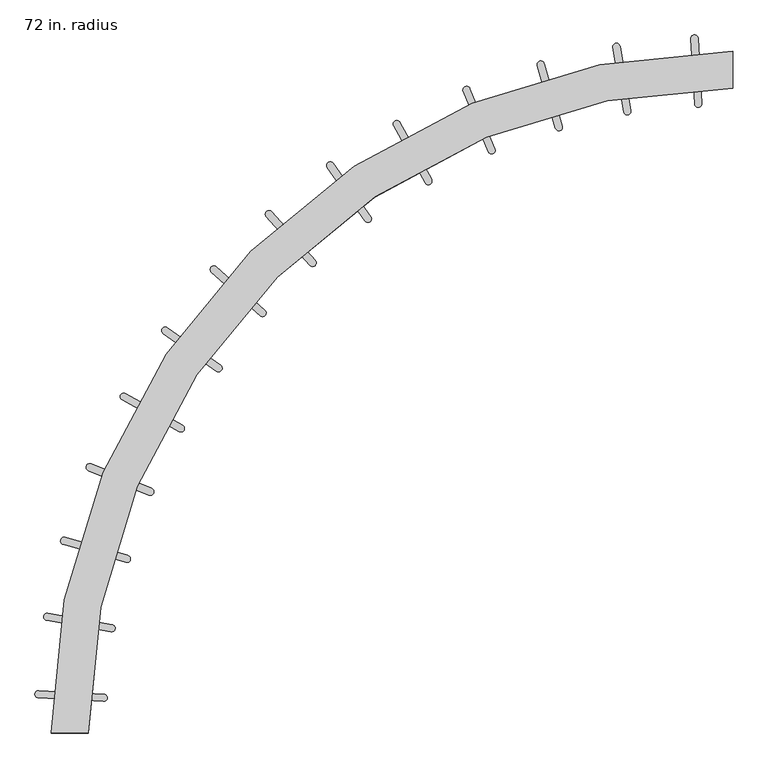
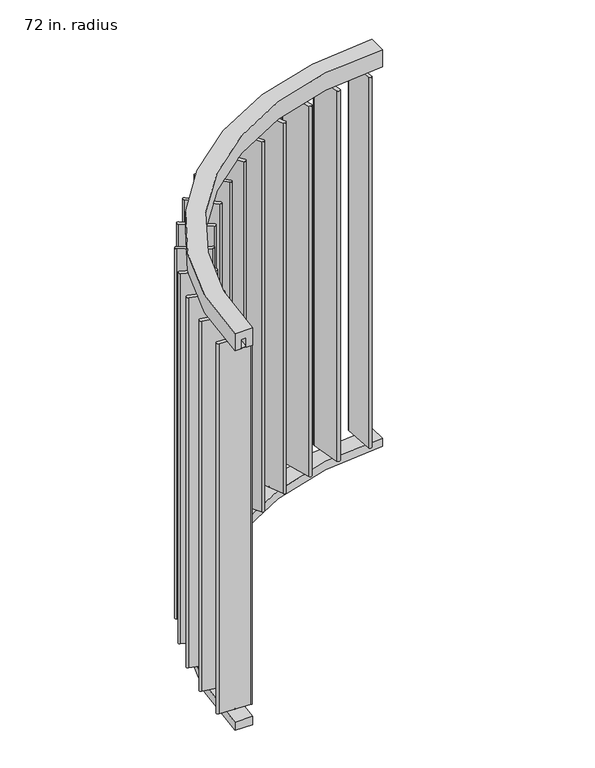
"""IFC4 building model written with IfcOpenShell, lengths in millimetres: furniture geometry, Haworth_Pergola_Slat_Painted_Radial : 72 in. radius."""

from ifc_helpers import new_model, si_unit, point, frame, frame_2d, origin, place, context, project, spatial, polyline, circle_curve, trimmed, segment, composite_curve, outline, extrude, source, transform, mapped, element, save
from ifc_brep_helpers import plane_surface, cylinder_surface, revolved_surface, advanced_brep


def furniture_72_in_radius_f867d50b(model_context):
    return source(origin(), model_context, "Body", "SolidModel", [
        extrude(outline(composite_curve([segment(trimmed(circle_curve(frame_2d((-62.7402712, 1825.7118169)), 6.0), [point((-67.2129486, 1829.7112115))], [point((-58.2675938, 1821.7124223))], False, "CARTESIAN"), True, "CONTINUOUS"), segment(trimmed(circle_curve(frame_2d((-62.7402712, 1825.7118169)), 6.0), [point((-58.2675938, 1821.7124223))], [point((-67.2129486, 1829.7112115))], False, "CARTESIAN"), True, "CONTINUOUS")], self_intersect=False)), frame((0.0, 0.0, 2331.8390625), z_axis=(0.0, 0.0, 1.0), x_axis=(1.0, 0.0, 0.0)), (0.0, 0.0, 1.0), 4.9609375),
        extrude(outline(composite_curve([segment(trimmed(circle_curve(frame_2d((-62.7402712, 1825.7118169)), 6.0), [point((-67.2129486, 1829.7112115))], [point((-58.2675938, 1821.7124223))], False, "CARTESIAN"), True, "CONTINUOUS"), segment(trimmed(circle_curve(frame_2d((-62.7402712, 1825.7118169)), 6.0), [point((-58.2675938, 1821.7124223))], [point((-67.2129486, 1829.7112115))], False, "CARTESIAN"), True, "CONTINUOUS")], self_intersect=False)), frame((0.0, 0.0, 63.5), z_axis=(0.0, 0.0, 1.0), x_axis=(1.0, 0.0, 0.0)), (0.0, 0.0, 1.0), 4.9609375),
        extrude(outline(composite_curve([segment(polyline([(-57.7748084, 1916.1124492), (-47.7357097, 1736.4060257)]), True, "CONTINUOUS"), segment(trimmed(circle_curve(frame_2d((-57.7201443, 1735.8482564)), 10.0000021), [point((-47.7357097, 1736.4060257))], [point((-67.704579, 1735.2904875))], False, "CARTESIAN"), True, "CONTINUOUS"), segment(polyline([(-67.704579, 1735.2904875), (-77.7436715, 1914.9969113)]), True, "CONTINUOUS"), segment(trimmed(circle_curve(frame_2d((-67.75924, 1915.55468)), 9.999999), [point((-77.7436715, 1914.9969113))], [point((-57.7748084, 1916.1124492))], False, "CARTESIAN"), True, "CONTINUOUS")], self_intersect=False)), frame((0.0, 0.0, 68.4609375), z_axis=(0.0, 0.0, 1.0), x_axis=(1.0, 0.0, 0.0)), (0.0, 0.0, 1.0), 2263.378125),
        extrude(outline(composite_curve([segment(trimmed(circle_curve(frame_2d((-268.0710539, 1803.8681342)), 6.0), [point((-272.9636666, 1807.3412223))], [point((-263.1784413, 1800.395046))], False, "CARTESIAN"), True, "CONTINUOUS"), segment(trimmed(circle_curve(frame_2d((-268.0710539, 1803.8681342)), 6.0), [point((-263.1784413, 1800.395046))], [point((-272.9636666, 1807.3412223))], False, "CARTESIAN"), True, "CONTINUOUS")], self_intersect=False)), frame((0.0, 0.0, 2331.8390625), z_axis=(0.0, 0.0, 1.0), x_axis=(1.0, 0.0, 0.0)), (0.0, 0.0, 1.0), 4.9609375),
        extrude(outline(composite_curve([segment(trimmed(circle_curve(frame_2d((-268.0710539, 1803.8681342)), 6.0), [point((-272.9636666, 1807.3412223))], [point((-263.1784413, 1800.395046))], False, "CARTESIAN"), True, "CONTINUOUS"), segment(trimmed(circle_curve(frame_2d((-268.0710539, 1803.8681342)), 6.0), [point((-263.1784413, 1800.395046))], [point((-272.9636666, 1807.3412223))], False, "CARTESIAN"), True, "CONTINUOUS")], self_intersect=False)), frame((0.0, 0.0, 63.5), z_axis=(0.0, 0.0, 1.0), x_axis=(1.0, 0.0, 0.0)), (0.0, 0.0, 1.0), 4.9609375),
        extrude(outline(composite_curve([segment(polyline([(-273.2654573, 1894.2559005), (-243.1550337, 1716.8057821)]), True, "CONTINUOUS"), segment(trimmed(circle_curve(frame_2d((-253.0141087, 1715.1328561)), 10.0000021), [point((-243.1550337, 1716.8057821))], [point((-262.8731838, 1713.4599304))], False, "CARTESIAN"), True, "CONTINUOUS"), segment(polyline([(-262.8731838, 1713.4599304), (-292.9836013, 1890.9100498)]), True, "CONTINUOUS"), segment(trimmed(circle_curve(frame_2d((-283.1245293, 1892.582975)), 9.999999), [point((-292.9836013, 1890.9100498))], [point((-273.2654573, 1894.2559005))], False, "CARTESIAN"), True, "CONTINUOUS")], self_intersect=False)), frame((0.0, 0.0, 68.4609375), z_axis=(0.0, 0.0, 1.0), x_axis=(1.0, 0.0, 0.0)), (0.0, 0.0, 1.0), 2263.378125),
        extrude(outline(composite_curve([segment(trimmed(circle_curve(frame_2d((-466.8878934, 1757.4010497)), 6.0), [point((-472.1388292, 1760.3040951))], [point((-461.6369575, 1754.4980042))], False, "CARTESIAN"), True, "CONTINUOUS"), segment(trimmed(circle_curve(frame_2d((-466.8878934, 1757.4010497)), 6.0), [point((-461.6369575, 1754.4980042))], [point((-472.1388292, 1760.3040951))], False, "CARTESIAN"), True, "CONTINUOUS")], self_intersect=False)), frame((0.0, 0.0, 2331.8390625), z_axis=(0.0, 0.0, 1.0), x_axis=(1.0, 0.0, 0.0)), (0.0, 0.0, 1.0), 4.9609375),
        extrude(outline(composite_curve([segment(trimmed(circle_curve(frame_2d((-466.8878934, 1757.4010497)), 6.0), [point((-472.1388292, 1760.3040951))], [point((-461.6369575, 1754.4980042))], False, "CARTESIAN"), True, "CONTINUOUS"), segment(trimmed(circle_curve(frame_2d((-466.8878934, 1757.4010497)), 6.0), [point((-461.6369575, 1754.4980042))], [point((-472.1388292, 1760.3040951))], False, "CARTESIAN"), True, "CONTINUOUS")], self_intersect=False)), frame((0.0, 0.0, 63.5), z_axis=(0.0, 0.0, 1.0), x_axis=(1.0, 0.0, 0.0)), (0.0, 0.0, 1.0), 4.9609375),
        extrude(outline(composite_curve([segment(polyline([(-482.1767518, 1846.6377066), (-432.3741779, 1673.678504)]), True, "CONTINUOUS"), segment(trimmed(circle_curve(frame_2d((-441.983739, 1670.9114881)), 10.0000021), [point((-432.3741779, 1673.678504))], [point((-451.5933002, 1668.1444724))], False, "CARTESIAN"), True, "CONTINUOUS"), segment(polyline([(-451.5933002, 1668.1444724), (-501.3958681, 1841.1036767)]), True, "CONTINUOUS"), segment(trimmed(circle_curve(frame_2d((-491.7863099, 1843.8706915)), 9.999999), [point((-501.3958681, 1841.1036767))], [point((-482.1767518, 1846.6377066))], False, "CARTESIAN"), True, "CONTINUOUS")], self_intersect=False)), frame((0.0, 0.0, 68.4609375), z_axis=(0.0, 0.0, 1.0), x_axis=(1.0, 0.0, 0.0)), (0.0, 0.0, 1.0), 2263.378125),
        extrude(outline(composite_curve([segment(trimmed(circle_curve(frame_2d((-662.1605905, 1690.3465261)), 6.0), [point((-667.703725, 1692.6429711))], [point((-656.617456, 1688.0500811))], False, "CARTESIAN"), True, "CONTINUOUS"), segment(trimmed(circle_curve(frame_2d((-662.1605905, 1690.3465261)), 6.0), [point((-656.617456, 1688.0500811))], [point((-667.703725, 1692.6429711))], False, "CARTESIAN"), True, "CONTINUOUS")], self_intersect=False)), frame((0.0, 0.0, 2331.8390625), z_axis=(0.0, 0.0, 1.0), x_axis=(1.0, 0.0, 0.0)), (0.0, 0.0, 1.0), 4.9609375),
        extrude(outline(composite_curve([segment(trimmed(circle_curve(frame_2d((-662.1605905, 1690.3465261)), 6.0), [point((-667.703725, 1692.6429711))], [point((-656.617456, 1688.0500811))], False, "CARTESIAN"), True, "CONTINUOUS"), segment(trimmed(circle_curve(frame_2d((-662.1605905, 1690.3465261)), 6.0), [point((-656.617456, 1688.0500811))], [point((-667.703725, 1692.6429711))], False, "CARTESIAN"), True, "CONTINUOUS")], self_intersect=False)), frame((0.0, 0.0, 63.5), z_axis=(0.0, 0.0, 1.0), x_axis=(1.0, 0.0, 0.0)), (0.0, 0.0, 1.0), 4.9609375),
        extrude(outline(composite_curve([segment(polyline([(-687.3513729, 1777.3083258), (-618.4838074, 1611.018096)]), True, "CONTINUOUS"), segment(trimmed(circle_curve(frame_2d((-627.7228424, 1607.1918348)), 10.0000021), [point((-618.4838074, 1611.018096))], [point((-636.9618775, 1603.365574))], False, "CARTESIAN"), True, "CONTINUOUS"), segment(polyline([(-636.9618775, 1603.365574), (-705.8294373, 1769.6558062)]), True, "CONTINUOUS"), segment(trimmed(circle_curve(frame_2d((-696.5904051, 1773.4820659)), 9.999999), [point((-705.8294373, 1769.6558062))], [point((-687.3513729, 1777.3083258))], False, "CARTESIAN"), True, "CONTINUOUS")], self_intersect=False)), frame((0.0, 0.0, 68.4609375), z_axis=(0.0, 0.0, 1.0), x_axis=(1.0, 0.0, 0.0)), (0.0, 0.0, 1.0), 2263.378125),
        extrude(outline(composite_curve([segment(trimmed(circle_curve(frame_2d((-845.5208251, 1600.7262647)), 6.0), [point((-851.2863542, 1602.3871903))], [point((-839.755296, 1599.0653391))], False, "CARTESIAN"), True, "CONTINUOUS"), segment(trimmed(circle_curve(frame_2d((-845.5208251, 1600.7262647)), 6.0), [point((-839.755296, 1599.0653391))], [point((-851.2863542, 1602.3871903))], False, "CARTESIAN"), True, "CONTINUOUS")], self_intersect=False)), frame((0.0, 0.0, 2331.8390625), z_axis=(0.0, 0.0, 1.0), x_axis=(1.0, 0.0, 0.0)), (0.0, 0.0, 1.0), 4.9609375),
        extrude(outline(composite_curve([segment(trimmed(circle_curve(frame_2d((-845.5208251, 1600.7262647)), 6.0), [point((-851.2863542, 1602.3871903))], [point((-839.755296, 1599.0653391))], False, "CARTESIAN"), True, "CONTINUOUS"), segment(trimmed(circle_curve(frame_2d((-845.5208251, 1600.7262647)), 6.0), [point((-839.755296, 1599.0653391))], [point((-851.2863542, 1602.3871903))], False, "CARTESIAN"), True, "CONTINUOUS")], self_intersect=False)), frame((0.0, 0.0, 63.5), z_axis=(0.0, 0.0, 1.0), x_axis=(1.0, 0.0, 0.0)), (0.0, 0.0, 1.0), 4.9609375),
        extrude(outline(composite_curve([segment(polyline([(-880.2963067, 1684.3181065), (-793.2309915, 1526.7909247)]), True, "CONTINUOUS"), segment(trimmed(circle_curve(frame_2d((-801.9831542, 1521.953602)), 10.0000021), [point((-793.2309915, 1526.7909247))], [point((-810.735317, 1517.1162797))], False, "CARTESIAN"), True, "CONTINUOUS"), segment(polyline([(-810.735317, 1517.1162797), (-897.8006268, 1674.6434645)]), True, "CONTINUOUS"), segment(trimmed(circle_curve(frame_2d((-889.0484667, 1679.4807853)), 9.999999), [point((-897.8006268, 1674.6434645))], [point((-880.2963067, 1684.3181065))], False, "CARTESIAN"), True, "CONTINUOUS")], self_intersect=False)), frame((0.0, 0.0, 68.4609375), z_axis=(0.0, 0.0, 1.0), x_axis=(1.0, 0.0, 0.0)), (0.0, 0.0, 1.0), 2263.378125),
        extrude(outline(composite_curve([segment(trimmed(circle_curve(frame_2d((-1020.7815216, 1491.8432837)), 6.0), [point((-1026.6968406, 1492.8477742))], [point((-1014.8662026, 1490.8387933))], False, "CARTESIAN"), True, "CONTINUOUS"), segment(trimmed(circle_curve(frame_2d((-1020.7815216, 1491.8432837)), 6.0), [point((-1014.8662026, 1490.8387933))], [point((-1026.6968406, 1492.8477742))], False, "CARTESIAN"), True, "CONTINUOUS")], self_intersect=False)), frame((0.0, 0.0, 2331.8390625), z_axis=(0.0, 0.0, 1.0), x_axis=(1.0, 0.0, 0.0)), (0.0, 0.0, 1.0), 4.9609375),
        extrude(outline(composite_curve([segment(trimmed(circle_curve(frame_2d((-1020.7815216, 1491.8432837)), 6.0), [point((-1026.6968406, 1492.8477742))], [point((-1014.8662026, 1490.8387933))], False, "CARTESIAN"), True, "CONTINUOUS"), segment(trimmed(circle_curve(frame_2d((-1020.7815216, 1491.8432837)), 6.0), [point((-1014.8662026, 1490.8387933))], [point((-1026.6968406, 1492.8477742))], False, "CARTESIAN"), True, "CONTINUOUS")], self_intersect=False)), frame((0.0, 0.0, 63.5), z_axis=(0.0, 0.0, 1.0), x_axis=(1.0, 0.0, 0.0)), (0.0, 0.0, 1.0), 4.9609375),
        extrude(outline(composite_curve([segment(polyline([(-1064.7037786, 1571.0125042), (-960.5371177, 1424.2320938)]), True, "CONTINUOUS"), segment(trimmed(circle_curve(frame_2d((-968.6921931, 1418.4446256)), 10.0000021), [point((-960.5371177, 1424.2320938))], [point((-976.8472686, 1412.6571576))], False, "CARTESIAN"), True, "CONTINUOUS"), segment(polyline([(-976.8472686, 1412.6571576), (-1081.0139244, 1559.4375716)]), True, "CONTINUOUS"), segment(trimmed(circle_curve(frame_2d((-1072.8588514, 1565.2250378)), 9.999999), [point((-1081.0139244, 1559.4375716))], [point((-1064.7037786, 1571.0125042))], False, "CARTESIAN"), True, "CONTINUOUS")], self_intersect=False)), frame((0.0, 0.0, 68.4609375), z_axis=(0.0, 0.0, 1.0), x_axis=(1.0, 0.0, 0.0)), (0.0, 0.0, 1.0), 2263.378125),
        extrude(outline(composite_curve([segment(trimmed(circle_curve(frame_2d((-1181.3122341, 1363.7610939)), 6.0), [point((-1187.302852, 1364.0964998))], [point((-1175.3216162, 1363.4256881))], False, "CARTESIAN"), True, "CONTINUOUS"), segment(trimmed(circle_curve(frame_2d((-1181.3122341, 1363.7610939)), 6.0), [point((-1175.3216162, 1363.4256881))], [point((-1187.302852, 1364.0964998))], False, "CARTESIAN"), True, "CONTINUOUS")], self_intersect=False)), frame((0.0, 0.0, 2331.8390625), z_axis=(0.0, 0.0, 1.0), x_axis=(1.0, 0.0, 0.0)), (0.0, 0.0, 1.0), 4.9609375),
        extrude(outline(composite_curve([segment(trimmed(circle_curve(frame_2d((-1181.3122341, 1363.7610939)), 6.0), [point((-1187.302852, 1364.0964998))], [point((-1175.3216162, 1363.4256881))], False, "CARTESIAN"), True, "CONTINUOUS"), segment(trimmed(circle_curve(frame_2d((-1181.3122341, 1363.7610939)), 6.0), [point((-1175.3216162, 1363.4256881))], [point((-1187.302852, 1364.0964998))], False, "CARTESIAN"), True, "CONTINUOUS")], self_intersect=False)), frame((0.0, 0.0, 63.5), z_axis=(0.0, 0.0, 1.0), x_axis=(1.0, 0.0, 0.0)), (0.0, 0.0, 1.0), 4.9609375),
        extrude(outline(composite_curve([segment(polyline([(-1233.8281567, 1437.5107245), (-1113.8719125, 1303.3254735)]), True, "CONTINUOUS"), segment(trimmed(circle_curve(frame_2d((-1121.3272045, 1296.6607407)), 10.0000021), [point((-1113.8719125, 1303.3254735))], [point((-1128.7824968, 1289.9960083))], False, "CARTESIAN"), True, "CONTINUOUS"), segment(polyline([(-1128.7824968, 1289.9960083), (-1248.7387364, 1424.1812634)]), True, "CONTINUOUS"), segment(trimmed(circle_curve(frame_2d((-1241.2834465, 1430.8459938)), 9.999999), [point((-1248.7387364, 1424.1812634))], [point((-1233.8281567, 1437.5107245))], False, "CARTESIAN"), True, "CONTINUOUS")], self_intersect=False)), frame((0.0, 0.0, 68.4609375), z_axis=(0.0, 0.0, 1.0), x_axis=(1.0, 0.0, 0.0)), (0.0, 0.0, 1.0), 2263.378125),
        extrude(outline(composite_curve([segment(trimmed(circle_curve(frame_2d((-1326.4288115, 1218.4963384)), 6.0), [point((-1332.4192891, 1218.1584358))], [point((-1320.4383339, 1218.834241))], False, "CARTESIAN"), True, "CONTINUOUS"), segment(trimmed(circle_curve(frame_2d((-1326.4288115, 1218.4963384)), 6.0), [point((-1320.4383339, 1218.834241))], [point((-1332.4192891, 1218.1584358))], False, "CARTESIAN"), True, "CONTINUOUS")], self_intersect=False)), frame((0.0, 0.0, 2331.8390625), z_axis=(0.0, 0.0, 1.0), x_axis=(1.0, 0.0, 0.0)), (0.0, 0.0, 1.0), 4.9609375),
        extrude(outline(composite_curve([segment(trimmed(circle_curve(frame_2d((-1326.4288115, 1218.4963384)), 6.0), [point((-1332.4192891, 1218.1584358))], [point((-1320.4383339, 1218.834241))], False, "CARTESIAN"), True, "CONTINUOUS"), segment(trimmed(circle_curve(frame_2d((-1326.4288115, 1218.4963384)), 6.0), [point((-1320.4383339, 1218.834241))], [point((-1332.4192891, 1218.1584358))], False, "CARTESIAN"), True, "CONTINUOUS")], self_intersect=False)), frame((0.0, 0.0, 63.5), z_axis=(0.0, 0.0, 1.0), x_axis=(1.0, 0.0, 0.0)), (0.0, 0.0, 1.0), 4.9609375),
        extrude(outline(composite_curve([segment(polyline([(-1386.8770746, 1285.897656), (-1252.641839, 1165.9973488)]), True, "CONTINUOUS"), segment(trimmed(circle_curve(frame_2d((-1259.3034639, 1158.5392797)), 10.0000021), [point((-1252.641839, 1165.9973488))], [point((-1265.9650891, 1151.0812107))], False, "CARTESIAN"), True, "CONTINUOUS"), segment(polyline([(-1265.9650891, 1151.0812107), (-1400.2003205, 1270.9815225)]), True, "CONTINUOUS"), segment(trimmed(circle_curve(frame_2d((-1393.5386974, 1278.4395891)), 9.999999), [point((-1400.2003205, 1270.9815225))], [point((-1386.8770746, 1285.897656))], False, "CARTESIAN"), True, "CONTINUOUS")], self_intersect=False)), frame((0.0, 0.0, 68.4609375), z_axis=(0.0, 0.0, 1.0), x_axis=(1.0, 0.0, 0.0)), (0.0, 0.0, 1.0), 2263.378125),
        extrude(outline(composite_curve([segment(trimmed(circle_curve(frame_2d((-1454.3038148, 1057.8960751)), 6.0), [point((-1460.2187146, 1056.8891193))], [point((-1448.388915, 1058.9030309))], False, "CARTESIAN"), True, "CONTINUOUS"), segment(trimmed(circle_curve(frame_2d((-1454.3038148, 1057.8960751)), 6.0), [point((-1448.388915, 1058.9030309))], [point((-1460.2187146, 1056.8891193))], False, "CARTESIAN"), True, "CONTINUOUS")], self_intersect=False)), frame((0.0, 0.0, 2331.8390625), z_axis=(0.0, 0.0, 1.0), x_axis=(1.0, 0.0, 0.0)), (0.0, 0.0, 1.0), 4.9609375),
        extrude(outline(composite_curve([segment(trimmed(circle_curve(frame_2d((-1454.3038148, 1057.8960751)), 6.0), [point((-1460.2187146, 1056.8891193))], [point((-1448.388915, 1058.9030309))], False, "CARTESIAN"), True, "CONTINUOUS"), segment(trimmed(circle_curve(frame_2d((-1454.3038148, 1057.8960751)), 6.0), [point((-1448.388915, 1058.9030309))], [point((-1460.2187146, 1056.8891193))], False, "CARTESIAN"), True, "CONTINUOUS")], self_intersect=False)), frame((0.0, 0.0, 63.5), z_axis=(0.0, 0.0, 1.0), x_axis=(1.0, 0.0, 0.0)), (0.0, 0.0, 1.0), 4.9609375),
        extrude(outline(composite_curve([segment(polyline([(-1521.9231987, 1118.100303), (-1375.099384, 1013.9948298)]), True, "CONTINUOUS"), segment(trimmed(circle_curve(frame_2d((-1380.8834527, 1005.837343)), 10.0000021), [point((-1375.099384, 1013.9948298))], [point((-1386.6675216, 997.6798563))], False, "CARTESIAN"), True, "CONTINUOUS"), segment(polyline([(-1386.6675216, 997.6798563), (-1533.4913328, 1101.7853346)]), True, "CONTINUOUS"), segment(trimmed(circle_curve(frame_2d((-1527.7072656, 1109.9428187)), 9.999999), [point((-1533.4913328, 1101.7853346))], [point((-1521.9231987, 1118.100303))], False, "CARTESIAN"), True, "CONTINUOUS")], self_intersect=False)), frame((0.0, 0.0, 68.4609375), z_axis=(0.0, 0.0, 1.0), x_axis=(1.0, 0.0, 0.0)), (0.0, 0.0, 1.0), 2263.378125),
        extrude(outline(composite_curve([segment(trimmed(circle_curve(frame_2d((-1563.4211308, 883.898911)), 6.0), [point((-1569.188701, 882.2450868))], [point((-1557.6535606, 885.5527351))], False, "CARTESIAN"), True, "CONTINUOUS"), segment(trimmed(circle_curve(frame_2d((-1563.4211308, 883.898911)), 6.0), [point((-1557.6535606, 885.5527351))], [point((-1569.188701, 882.2450868))], False, "CARTESIAN"), True, "CONTINUOUS")], self_intersect=False)), frame((0.0, 0.0, 2331.8390625), z_axis=(0.0, 0.0, 1.0), x_axis=(1.0, 0.0, 0.0)), (0.0, 0.0, 1.0), 4.9609375),
        extrude(outline(composite_curve([segment(trimmed(circle_curve(frame_2d((-1563.4211308, 883.898911)), 6.0), [point((-1569.188701, 882.2450868))], [point((-1557.6535606, 885.5527351))], False, "CARTESIAN"), True, "CONTINUOUS"), segment(trimmed(circle_curve(frame_2d((-1563.4211308, 883.898911)), 6.0), [point((-1557.6535606, 885.5527351))], [point((-1569.188701, 882.2450868))], False, "CARTESIAN"), True, "CONTINUOUS")], self_intersect=False)), frame((0.0, 0.0, 63.5), z_axis=(0.0, 0.0, 1.0), x_axis=(1.0, 0.0, 0.0)), (0.0, 0.0, 1.0), 4.9609375),
        extrude(outline(composite_curve([segment(polyline([(-1637.2738897, 936.2697056), (-1479.8540475, 849.0104631)]), True, "CONTINUOUS"), segment(trimmed(circle_curve(frame_2d((-1484.7021447, 840.2642642)), 10.0000021), [point((-1479.8540475, 849.0104631))], [point((-1489.5502421, 831.5180654))], False, "CARTESIAN"), True, "CONTINUOUS"), segment(polyline([(-1489.5502421, 831.5180654), (-1646.9700813, 918.7773134)]), True, "CONTINUOUS"), segment(trimmed(circle_curve(frame_2d((-1642.1219854, 927.5235094)), 9.999999), [point((-1646.9700813, 918.7773134))], [point((-1637.2738897, 936.2697056))], False, "CARTESIAN"), True, "CONTINUOUS")], self_intersect=False)), frame((0.0, 0.0, 68.4609375), z_axis=(0.0, 0.0, 1.0), x_axis=(1.0, 0.0, 0.0)), (0.0, 0.0, 1.0), 2263.378125),
        extrude(outline(composite_curve([segment(trimmed(circle_curve(frame_2d((-1652.7103839, 699.1685369)), 6.0), [point((-1658.233413, 696.8241501))], [point((-1647.1873548, 701.5129236))], False, "CARTESIAN"), True, "CONTINUOUS"), segment(trimmed(circle_curve(frame_2d((-1652.7103839, 699.1685369)), 6.0), [point((-1647.1873548, 701.5129236))], [point((-1658.233413, 696.8241501))], False, "CARTESIAN"), True, "CONTINUOUS")], self_intersect=False)), frame((0.0, 0.0, 2331.8390625), z_axis=(0.0, 0.0, 1.0), x_axis=(1.0, 0.0, 0.0)), (0.0, 0.0, 1.0), 4.9609375),
        extrude(outline(composite_curve([segment(trimmed(circle_curve(frame_2d((-1652.7103839, 699.1685369)), 6.0), [point((-1658.233413, 696.8241501))], [point((-1647.1873548, 701.5129236))], False, "CARTESIAN"), True, "CONTINUOUS"), segment(trimmed(circle_curve(frame_2d((-1652.7103839, 699.1685369)), 6.0), [point((-1647.1873548, 701.5129236))], [point((-1658.233413, 696.8241501))], False, "CARTESIAN"), True, "CONTINUOUS")], self_intersect=False)), frame((0.0, 0.0, 63.5), z_axis=(0.0, 0.0, 1.0), x_axis=(1.0, 0.0, 0.0)), (0.0, 0.0, 1.0), 4.9609375),
        extrude(outline(composite_curve([segment(polyline([(-1732.3950499, 742.1485803), (-1565.5143647, 674.7244078)]), True, "CONTINUOUS"), segment(trimmed(circle_curve(frame_2d((-1569.2604314, 665.4525673)), 10.0000021), [point((-1565.5143647, 674.7244078))], [point((-1573.0064984, 656.1807269))], False, "CARTESIAN"), True, "CONTINUOUS"), segment(polyline([(-1573.0064984, 656.1807269), (-1739.8871813, 723.6049052)]), True, "CONTINUOUS"), segment(trimmed(circle_curve(frame_2d((-1736.1411154, 732.8767427)), 9.999999), [point((-1739.8871813, 723.6049052))], [point((-1732.3950499, 742.1485803))], False, "CARTESIAN"), True, "CONTINUOUS")], self_intersect=False)), frame((0.0, 0.0, 68.4609375), z_axis=(0.0, 0.0, 1.0), x_axis=(1.0, 0.0, 0.0)), (0.0, 0.0, 1.0), 2263.378125),
        extrude(outline(composite_curve([segment(trimmed(circle_curve(frame_2d((-1720.2393717, 504.9831694)), 6.0), [point((-1725.4870899, 502.0743117))], [point((-1714.9916535, 507.8920271))], False, "CARTESIAN"), True, "CONTINUOUS"), segment(trimmed(circle_curve(frame_2d((-1720.2393717, 504.9831694)), 6.0), [point((-1714.9916535, 507.8920271))], [point((-1725.4870899, 502.0743117))], False, "CARTESIAN"), True, "CONTINUOUS")], self_intersect=False)), frame((0.0, 0.0, 2331.8390625), z_axis=(0.0, 0.0, 1.0), x_axis=(1.0, 0.0, 0.0)), (0.0, 0.0, 1.0), 4.9609375),
        extrude(outline(composite_curve([segment(trimmed(circle_curve(frame_2d((-1720.2393717, 504.9831694)), 6.0), [point((-1725.4870899, 502.0743117))], [point((-1714.9916535, 507.8920271))], False, "CARTESIAN"), True, "CONTINUOUS"), segment(trimmed(circle_curve(frame_2d((-1720.2393717, 504.9831694)), 6.0), [point((-1714.9916535, 507.8920271))], [point((-1725.4870899, 502.0743117))], False, "CARTESIAN"), True, "CONTINUOUS")], self_intersect=False)), frame((0.0, 0.0, 63.5), z_axis=(0.0, 0.0, 1.0), x_axis=(1.0, 0.0, 0.0)), (0.0, 0.0, 1.0), 4.9609375),
        extrude(outline(composite_curve([segment(polyline([(-1803.9801547, 539.398448), (-1630.9659142, 489.7874137)]), True, "CONTINUOUS"), segment(trimmed(circle_curve(frame_2d((-1633.7222883, 480.1747947)), 10.0000021), [point((-1630.9659142, 489.7874137))], [point((-1636.4786627, 470.5621758))], False, "CARTESIAN"), True, "CONTINUOUS"), segment(polyline([(-1636.4786627, 470.5621758), (-1809.4929015, 520.1732161)]), True, "CONTINUOUS"), segment(trimmed(circle_curve(frame_2d((-1806.7365279, 529.785832)), 9.999999), [point((-1809.4929015, 520.1732161))], [point((-1803.9801547, 539.398448))], False, "CARTESIAN"), True, "CONTINUOUS")], self_intersect=False)), frame((0.0, 0.0, 68.4609375), z_axis=(0.0, 0.0, 1.0), x_axis=(1.0, 0.0, 0.0)), (0.0, 0.0, 1.0), 2263.378125),
        extrude(outline(composite_curve([segment(trimmed(circle_curve(frame_2d((-1764.6514865, 304.6306878)), 6.0), [point((-1769.5663988, 301.1892292))], [point((-1759.7365742, 308.0721464))], False, "CARTESIAN"), True, "CONTINUOUS"), segment(trimmed(circle_curve(frame_2d((-1764.6514865, 304.6306878)), 6.0), [point((-1759.7365742, 308.0721464))], [point((-1769.5663988, 301.1892292))], False, "CARTESIAN"), True, "CONTINUOUS")], self_intersect=False)), frame((0.0, 0.0, 2331.8390625), z_axis=(0.0, 0.0, 1.0), x_axis=(1.0, 0.0, 0.0)), (0.0, 0.0, 1.0), 4.9609375),
        extrude(outline(composite_curve([segment(trimmed(circle_curve(frame_2d((-1764.6514865, 304.6306878)), 6.0), [point((-1769.5663988, 301.1892292))], [point((-1759.7365742, 308.0721464))], False, "CARTESIAN"), True, "CONTINUOUS"), segment(trimmed(circle_curve(frame_2d((-1764.6514865, 304.6306878)), 6.0), [point((-1759.7365742, 308.0721464))], [point((-1769.5663988, 301.1892292))], False, "CARTESIAN"), True, "CONTINUOUS")], self_intersect=False)), frame((0.0, 0.0, 63.5), z_axis=(0.0, 0.0, 1.0), x_axis=(1.0, 0.0, 0.0)), (0.0, 0.0, 1.0), 4.9609375),
        extrude(outline(composite_curve([segment(polyline([(-1851.5309049, 330.1041406), (-1674.2786893, 298.8497934)]), True, "CONTINUOUS"), segment(trimmed(circle_curve(frame_2d((-1676.0151714, 289.0017138)), 10.0000021), [point((-1674.2786893, 298.8497934))], [point((-1677.7516539, 279.1536342))], False, "CARTESIAN"), True, "CONTINUOUS"), segment(polyline([(-1677.7516539, 279.1536342), (-1855.0038683, 310.4079875)]), True, "CONTINUOUS"), segment(trimmed(circle_curve(frame_2d((-1853.2673864, 320.256064)), 9.999999), [point((-1855.0038683, 310.4079875))], [point((-1851.5309049, 330.1041406))], False, "CARTESIAN"), True, "CONTINUOUS")], self_intersect=False)), frame((0.0, 0.0, 68.4609375), z_axis=(0.0, 0.0, 1.0), x_axis=(1.0, 0.0, 0.0)), (0.0, 0.0, 1.0), 2263.378125),
        extrude(outline(composite_curve([segment(trimmed(circle_curve(frame_2d((-1787.4609431, 102.0781138)), 6.0), [point((-1782.989933, 106.0793722))], [point((-1791.9319532, 98.0768554))], False, "CARTESIAN"), True, "CONTINUOUS"), segment(trimmed(circle_curve(frame_2d((-1787.4609431, 102.0781138)), 6.0), [point((-1791.9319532, 98.0768554))], [point((-1782.989933, 106.0793722))], False, "CARTESIAN"), True, "CONTINUOUS")], self_intersect=False)), frame((0.0, 0.0, 2331.8390625), z_axis=(0.0, 0.0, 1.0), x_axis=(1.0, 0.0, 0.0)), (0.0, 0.0, 1.0), 4.9609375),
        extrude(outline(composite_curve([segment(trimmed(circle_curve(frame_2d((-1787.4609431, 102.0781138)), 6.0), [point((-1782.989933, 106.0793722))], [point((-1791.9319532, 98.0768554))], False, "CARTESIAN"), True, "CONTINUOUS"), segment(trimmed(circle_curve(frame_2d((-1787.4609431, 102.0781138)), 6.0), [point((-1791.9319532, 98.0768554))], [point((-1782.989933, 106.0793722))], False, "CARTESIAN"), True, "CONTINUOUS")], self_intersect=False)), frame((0.0, 0.0, 63.5), z_axis=(0.0, 0.0, 1.0), x_axis=(1.0, 0.0, 0.0)), (0.0, 0.0, 1.0), 4.9609375),
        extrude(outline(composite_curve([segment(polyline([(-1698.1696036, 87.1119244), (-1877.8801958, 97.0761194)]), True, "CONTINUOUS"), segment(trimmed(circle_curve(frame_2d((-1877.3265881, 107.0607857)), 10.0000021), [point((-1877.8801958, 97.0761194))], [point((-1876.7729801, 117.045452))], False, "CARTESIAN"), True, "CONTINUOUS"), segment(polyline([(-1876.7729801, 117.045452), (-1697.0623883, 107.0812507)]), True, "CONTINUOUS"), segment(trimmed(circle_curve(frame_2d((-1697.6159961, 97.0965876)), 9.999999), [point((-1697.0623883, 107.0812507))], [point((-1698.1696036, 87.1119244))], False, "CARTESIAN"), True, "CONTINUOUS")], self_intersect=False)), frame((0.0, 0.0, 68.4609375), z_axis=(0.0, 0.0, 1.0), x_axis=(1.0, 0.0, 0.0)), (0.0, 0.0, 1.0), 2263.378125),
        advanced_brep(
        [(38.1, 1880.0004563, 2439.5538444), (38.1, 1778.4004563, 2439.5538444), (38.1, 1778.4004563, 2332.9929069), (38.1, 1813.9821615, 2332.9929069), (38.1, 1813.9821615, 2389.8540108), (38.1, 1844.4187511, 2389.8540108), (38.1, 1844.4187511, 2332.9929069), (38.1, 1880.0004563, 2332.9929069), (-1841.9004562, 0.0, 2439.5538444), (-1841.9004562, 0.0, 2332.9929069), (-1806.318751, 0.0, 2332.9929069), (-1806.318751, 0.0, 2389.8540108), (-1775.8821615, 0.0, 2389.8540108), (-1775.8821615, 0.0, 2332.9929069), (-1740.3004562, 0.0, 2332.9929069), (-1740.3004562, 0.0, 2439.5538444)],
        [
            (0, 1),
            (1, 2),
            (2, 3),
            (3, 4),
            (4, 5),
            (5, 6),
            (6, 7),
            (7, 0),
            (8, 9),
            (9, 10),
            (10, 11),
            (11, 12),
            (12, 13),
            (13, 14),
            (14, 15),
            (15, 8),
            (15, 1, circle_curve(frame((38.1, 0.0, 2439.5538444), z_axis=(0.0, 0.0, -1.0), x_axis=(0.0, 1.0, 0.0)), 1778.4004562)),
            (0, 8, circle_curve(frame((38.1, 0.0, 2439.5538444), z_axis=(0.0, 0.0, 1.0), x_axis=(0.0, 1.0, 0.0)), 1880.0004562)),
            (14, 2, circle_curve(frame((38.1, 0.0, 2332.9929069), z_axis=(0.0, 0.0, -1.0), x_axis=(0.0, 1.0, 0.0)), 1778.4004562)),
            (7, 9, circle_curve(frame((38.1, 0.0, 2332.9929069), z_axis=(0.0, 0.0, 1.0), x_axis=(0.0, 1.0, 0.0)), 1880.0004562)),
            (13, 3, circle_curve(frame((38.1, 0.0, 2332.9929069), z_axis=(0.0, 0.0, -1.0), x_axis=(0.0, 1.0, 0.0)), 1813.9821615)),
            (12, 4, circle_curve(frame((38.1, 0.0, 2389.8540108), z_axis=(0.0, 0.0, -1.0), x_axis=(0.0, 1.0, 0.0)), 1813.9821615)),
            (11, 5, circle_curve(frame((38.1, 0.0, 2389.8540108), z_axis=(0.0, 0.0, -1.0), x_axis=(0.0, 1.0, 0.0)), 1844.418751)),
            (10, 6, circle_curve(frame((38.1, 0.0, 2332.9929069), z_axis=(0.0, 0.0, -1.0), x_axis=(0.0, 1.0, 0.0)), 1844.418751)),
        ],
        [
            plane_surface(frame((38.1, 0.0, 2452.2538444), z_axis=(1.0, 0.0, 0.0), x_axis=(0.0, 1.0, 0.0))),
            plane_surface(frame((38.1, 0.0, 2452.2538444), z_axis=(0.0, -1.0, 0.0), x_axis=(-1.0, 0.0, 0.0))),
            plane_surface(frame((38.1, 0.0, 2439.5538444), z_axis=(0.0, 0.0, 1.0), x_axis=(0.0, 1.0, 0.0))),
            revolved_surface(polyline([(38.1, 1778.4004562, 2439.5538444), (38.1, 1778.4004562, 2332.9929069)]), (38.1, 0.0, 2452.2538444), (0.0, 0.0, 1.0)),
            cylinder_surface(frame((38.1, 0.0, 2452.2538444), z_axis=(0.0, 0.0, 1.0), x_axis=(0.0, 1.0, 0.0)), 1880.0004562),
            plane_surface(frame((38.1, 0.0, 2332.9929069), z_axis=(0.0, 0.0, -1.0), x_axis=(0.0, 1.0, 0.0))),
            cylinder_surface(frame((38.1, 0.0, 2452.2538444), z_axis=(0.0, 0.0, 1.0), x_axis=(0.0, 1.0, 0.0)), 1813.9821615),
            plane_surface(frame((38.1, 0.0, 2389.8540108), z_axis=(0.0, 0.0, -1.0), x_axis=(0.0, 1.0, 0.0))),
            revolved_surface(polyline([(38.1, 1844.418751, 2389.8540108), (38.1, 1844.418751, 2332.9929069)]), (38.1, 0.0, 2452.2538444), (0.0, 0.0, 1.0)),
        ],
        [
            (0, [[1, 2, 3, 4, 5, 6, 7, 8]]),
            (1, [[9, 10, 11, 12, 13, 14, 15, 16]]),
            (2, [[17, -1, 18, -16]]),
            (3, [[19, -2, -17, -15]]),
            (4, [[-18, -8, 20, -9]]),
            (5, [[21, -3, -19, -14]]),
            (6, [[22, -4, -21, -13]]),
            (7, [[23, -5, -22, -12]]),
            (8, [[24, -6, -23, -11]]),
            (5, [[-20, -7, -24, -10]]),
        ],
    ),
        extrude(outline(composite_curve([segment(trimmed(circle_curve(frame_2d((38.1, 0.0)), 1813.507017), [point((38.1, 1813.5070171))], [point((-1775.4070171, 0.0))], True, "CARTESIAN"), True, "CONTINUOUS"), segment(polyline([(-1775.4070171, 0.0), (-1806.6832164, 0.0)]), True, "CONTINUOUS"), segment(trimmed(circle_curve(frame_2d((38.1, 0.0)), 1844.7832163), [point((-1806.6832164, 0.0))], [point((38.1, 1844.7832164))], False, "CARTESIAN"), True, "CONTINUOUS"), segment(polyline([(38.1, 1844.7832164), (38.1, 1813.5070171)]), True, "CONTINUOUS")], self_intersect=False)), frame((0.0, 0.0, 2336.8), z_axis=(0.0, 0.0, 1.0), x_axis=(1.0, 0.0, 0.0)), (0.0, 0.0, 1.0), 1.7500001),
        extrude(outline(composite_curve([segment(trimmed(circle_curve(frame_2d((38.1, 0.0)), 1880.0004562), [point((-1841.9004562, 0.0))], [point((38.1, 1880.0004562))], False, "CARTESIAN"), True, "CONTINUOUS"), segment(polyline([(38.1, 1880.0004562), (38.1, 1778.4004562)]), True, "CONTINUOUS"), segment(trimmed(circle_curve(frame_2d((38.1, 0.0)), 1778.4004562), [point((38.1, 1778.4004562))], [point((-1740.3004562, 0.0))], True, "CARTESIAN"), True, "CONTINUOUS"), segment(polyline([(-1740.3004562, 0.0), (-1841.9004562, 0.0)]), True, "CONTINUOUS")], self_intersect=False)), frame((0.0, 0.0, 12.6999985), z_axis=(0.0, 0.0, 1.0), x_axis=(1.0, 0.0, 0.0)), (0.0, 0.0, 1.0), 50.8000015),
    ])


if __name__ == "__main__":
    model = new_model("IFC4")
    model_context = context("Model", 3, world=origin())
    ifc_project = project(units=[si_unit("LENGTHUNIT", "METRE", prefix="MILLI")], contexts=[model_context])
    site = spatial("IfcSite", under=ifc_project)
    building = spatial("IfcBuilding", under=site)
    placement = place(None, origin())
    furniture_72_in_radius_shape = furniture_72_in_radius_f867d50b(model_context)
    element("IfcFurniture", 1, ObjectType="Haworth_Pergola_Slat_Painted_Radial : 72 in. radius", at=placement, inside=building, context=model_context, shape_type="MappedRepresentation", body=[
        mapped(furniture_72_in_radius_shape, transform((0.0, 0.0, 0.0), x_axis=(1.0, 0.0, 0.0), y_axis=(0.0, 1.0, 0.0), z_axis=(0.0, 0.0, 1.0))),
    ])
    save(model, "model.ifc")
